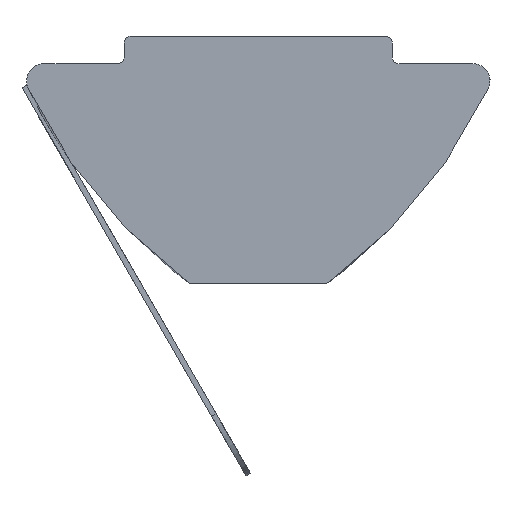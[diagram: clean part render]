
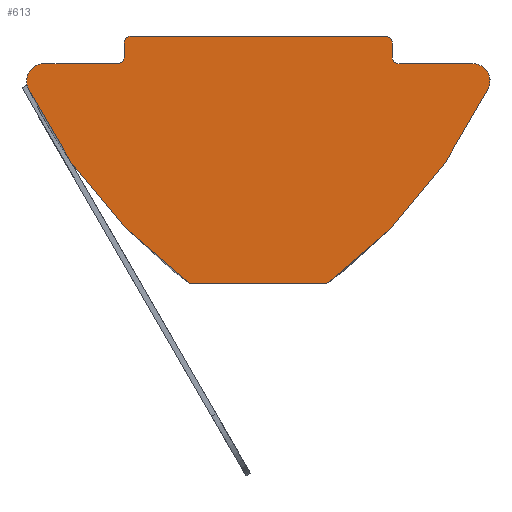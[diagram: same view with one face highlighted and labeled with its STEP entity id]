
A CAD part, left-side view. The second image highlights one B-rep face of the part: STEP entity #613.
In plain terms, the highlighted planar face has unit normal (-1, 0, 0).
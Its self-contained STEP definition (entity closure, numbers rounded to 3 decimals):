
#31 = EDGE_CURVE ( 'NONE', #843, #131, #1115, .T. ) ;
#32 = DIRECTION ( 'NONE',  ( 0., 1., 0. ) ) ;
#44 = ORIENTED_EDGE ( 'NONE', *, *, #31, .F. ) ;
#50 = VERTEX_POINT ( 'NONE', #742 ) ;
#73 = CIRCLE ( 'NONE', #727, 0.505 ) ;
#102 = CIRCLE ( 'NONE', #984, 0.2 ) ;
#104 = CIRCLE ( 'NONE', #986, 15. ) ;
#113 = EDGE_CURVE ( 'NONE', #456, #839, #249, .T. ) ;
#118 = CARTESIAN_POINT ( 'NONE',  ( -11., -3.7, 0. ) ) ;
#120 = CARTESIAN_POINT ( 'NONE',  ( -11., -6.242, -1.305 ) ) ;
#121 = LINE ( 'NONE', #519, #1202 ) ;
#128 = DIRECTION ( 'NONE',  ( 0., -1., 0. ) ) ;
#131 = VERTEX_POINT ( 'NONE', #1059 ) ;
#143 = CARTESIAN_POINT ( 'NONE',  ( -11., 3.7, -0.2 ) ) ;
#162 = CARTESIAN_POINT ( 'NONE',  ( -11., -4.1, -0.6 ) ) ;
#164 = ORIENTED_EDGE ( 'NONE', *, *, #1090, .F. ) ;
#167 = DIRECTION ( 'NONE',  ( 0., 0., 1. ) ) ;
#170 = CARTESIAN_POINT ( 'NONE',  ( -11., 3.9, -0.6 ) ) ;
#173 = AXIS2_PLACEMENT_3D ( 'NONE', #143, #1184, #738 ) ;
#194 = CARTESIAN_POINT ( 'NONE',  ( -11., 3.9, -0.2 ) ) ;
#209 = EDGE_LOOP ( 'NONE', ( #1215, #517, #164, #894, #1259, #486, #1103, #44, #1104, #503, #1167, #832, #665, #723 ) ) ;
#219 = DIRECTION ( 'NONE',  ( 0., -1., 0. ) ) ;
#232 = CARTESIAN_POINT ( 'NONE',  ( -11., 4.1, -0.6 ) ) ;
#235 = AXIS2_PLACEMENT_3D ( 'NONE', #269, #944, #248 ) ;
#247 = EDGE_CURVE ( 'NONE', #803, #870, #102, .T. ) ;
#248 = DIRECTION ( 'NONE',  ( 0., 0., 1. ) ) ;
#249 = LINE ( 'NONE', #1163, #1281 ) ;
#269 = CARTESIAN_POINT ( 'NONE',  ( -11., 6.854, 4.908 ) ) ;
#281 = VERTEX_POINT ( 'NONE', #170 ) ;
#288 = EDGE_CURVE ( 'NONE', #131, #1183, #916, .T. ) ;
#308 = CARTESIAN_POINT ( 'NONE',  ( -11., -6.242, -0.8 ) ) ;
#310 = LINE ( 'NONE', #987, #778 ) ;
#340 = VERTEX_POINT ( 'NONE', #675 ) ;
#383 = AXIS2_PLACEMENT_3D ( 'NONE', #1278, #948, #167 ) ;
#401 = VECTOR ( 'NONE', #128, 1000. ) ;
#409 = CIRCLE ( 'NONE', #1140, 0.2 ) ;
#410 = DIRECTION ( 'NONE',  ( 0., 0., 1. ) ) ;
#413 = CARTESIAN_POINT ( 'NONE',  ( -11., -4.1, -0.8 ) ) ;
#422 = CARTESIAN_POINT ( 'NONE',  ( -11., 3.9, -0.6 ) ) ;
#427 = VECTOR ( 'NONE', #881, 1000. ) ;
#456 = VERTEX_POINT ( 'NONE', #1132 ) ;
#458 = DIRECTION ( 'NONE',  ( 0., 0., 1. ) ) ;
#461 = AXIS2_PLACEMENT_3D ( 'NONE', #232, #1124, #632 ) ;
#486 = ORIENTED_EDGE ( 'NONE', *, *, #864, .F. ) ;
#487 = CARTESIAN_POINT ( 'NONE',  ( -11., 4.1, -0.8 ) ) ;
#503 = ORIENTED_EDGE ( 'NONE', *, *, #973, .T. ) ;
#509 = VERTEX_POINT ( 'NONE', #118 ) ;
#517 = ORIENTED_EDGE ( 'NONE', *, *, #575, .T. ) ;
#519 = CARTESIAN_POINT ( 'NONE',  ( -11., 3.7, -7.2 ) ) ;
#527 = VERTEX_POINT ( 'NONE', #413 ) ;
#553 = CARTESIAN_POINT ( 'NONE',  ( -11., 3.7, -0.2 ) ) ;
#575 = EDGE_CURVE ( 'NONE', #281, #716, #629, .T. ) ;
#584 = EDGE_CURVE ( 'NONE', #340, #1229, #73, .T. ) ;
#602 = CARTESIAN_POINT ( 'NONE',  ( -11., 3.7, -0.8 ) ) ;
#613 = ADVANCED_FACE ( 'NONE', ( #830 ), #875, .F. ) ;
#629 = CIRCLE ( 'NONE', #461, 0.2 ) ;
#632 = DIRECTION ( 'NONE',  ( 0., 0., 1. ) ) ;
#651 = CARTESIAN_POINT ( 'NONE',  ( -11., -6.854, 4.908 ) ) ;
#665 = ORIENTED_EDGE ( 'NONE', *, *, #1213, .F. ) ;
#668 = DIRECTION ( 'NONE',  ( 0., 0., 1. ) ) ;
#672 = DIRECTION ( 'NONE',  ( 1., 0., 0. ) ) ;
#675 = CARTESIAN_POINT ( 'NONE',  ( -11., 6.698, -1.521 ) ) ;
#682 = DIRECTION ( 'NONE',  ( 1., 0., 0. ) ) ;
#706 = EDGE_CURVE ( 'NONE', #50, #340, #104, .T. ) ;
#715 = LINE ( 'NONE', #422, #1074 ) ;
#716 = VERTEX_POINT ( 'NONE', #487 ) ;
#723 = ORIENTED_EDGE ( 'NONE', *, *, #247, .F. ) ;
#727 = AXIS2_PLACEMENT_3D ( 'NONE', #730, #897, #1023 ) ;
#730 = CARTESIAN_POINT ( 'NONE',  ( -11., 6.242, -1.305 ) ) ;
#738 = DIRECTION ( 'NONE',  ( 0., 0., -1. ) ) ;
#742 = CARTESIAN_POINT ( 'NONE',  ( -11., 2., -7.2 ) ) ;
#744 = CIRCLE ( 'NONE', #383, 0.2 ) ;
#746 = EDGE_CURVE ( 'NONE', #527, #843, #792, .T. ) ;
#778 = VECTOR ( 'NONE', #219, 1000. ) ;
#792 = LINE ( 'NONE', #602, #427 ) ;
#803 = VERTEX_POINT ( 'NONE', #194 ) ;
#817 = LINE ( 'NONE', #1035, #401 ) ;
#830 = FACE_OUTER_BOUND ( 'NONE', #209, .T. ) ;
#832 = ORIENTED_EDGE ( 'NONE', *, *, #974, .F. ) ;
#839 = VERTEX_POINT ( 'NONE', #991 ) ;
#843 = VERTEX_POINT ( 'NONE', #308 ) ;
#864 = EDGE_CURVE ( 'NONE', #1183, #50, #121, .T. ) ;
#870 = VERTEX_POINT ( 'NONE', #1224 ) ;
#875 = PLANE ( 'NONE',  #173 ) ;
#877 = EDGE_CURVE ( 'NONE', #803, #281, #715, .T. ) ;
#881 = DIRECTION ( 'NONE',  ( 0., -1., 0. ) ) ;
#894 = ORIENTED_EDGE ( 'NONE', *, *, #584, .F. ) ;
#897 = DIRECTION ( 'NONE',  ( 1., 0., 0. ) ) ;
#900 = DIRECTION ( 'NONE',  ( 1., 0., 0. ) ) ;
#916 = CIRCLE ( 'NONE', #235, 15. ) ;
#936 = CARTESIAN_POINT ( 'NONE',  ( -11., 6.242, -0.8 ) ) ;
#942 = DIRECTION ( 'NONE',  ( 1., 0., 0. ) ) ;
#944 = DIRECTION ( 'NONE',  ( 1., 0., 0. ) ) ;
#948 = DIRECTION ( 'NONE',  ( 1., 0., 0. ) ) ;
#966 = AXIS2_PLACEMENT_3D ( 'NONE', #120, #900, #410 ) ;
#973 = EDGE_CURVE ( 'NONE', #527, #456, #409, .T. ) ;
#974 = EDGE_CURVE ( 'NONE', #509, #839, #744, .T. ) ;
#984 = AXIS2_PLACEMENT_3D ( 'NONE', #553, #672, #1254 ) ;
#986 = AXIS2_PLACEMENT_3D ( 'NONE', #651, #942, #1146 ) ;
#987 = CARTESIAN_POINT ( 'NONE',  ( -11., 3.7, -0.8 ) ) ;
#991 = CARTESIAN_POINT ( 'NONE',  ( -11., -3.9, -0.2 ) ) ;
#1023 = DIRECTION ( 'NONE',  ( 0., 0., 1. ) ) ;
#1035 = CARTESIAN_POINT ( 'NONE',  ( -11., 3.7, 0. ) ) ;
#1059 = CARTESIAN_POINT ( 'NONE',  ( -11., -6.698, -1.521 ) ) ;
#1074 = VECTOR ( 'NONE', #1114, 1000. ) ;
#1090 = EDGE_CURVE ( 'NONE', #1229, #716, #310, .T. ) ;
#1103 = ORIENTED_EDGE ( 'NONE', *, *, #288, .F. ) ;
#1104 = ORIENTED_EDGE ( 'NONE', *, *, #746, .F. ) ;
#1114 = DIRECTION ( 'NONE',  ( 0., 0., -1. ) ) ;
#1115 = CIRCLE ( 'NONE', #966, 0.505 ) ;
#1124 = DIRECTION ( 'NONE',  ( 1., 0., 0. ) ) ;
#1132 = CARTESIAN_POINT ( 'NONE',  ( -11., -3.9, -0.6 ) ) ;
#1140 = AXIS2_PLACEMENT_3D ( 'NONE', #162, #682, #458 ) ;
#1146 = DIRECTION ( 'NONE',  ( 0., 0., 1. ) ) ;
#1163 = CARTESIAN_POINT ( 'NONE',  ( -11., -3.9, -0.2 ) ) ;
#1167 = ORIENTED_EDGE ( 'NONE', *, *, #113, .T. ) ;
#1183 = VERTEX_POINT ( 'NONE', #1245 ) ;
#1184 = DIRECTION ( 'NONE',  ( 1., 0., 0. ) ) ;
#1202 = VECTOR ( 'NONE', #32, 1000. ) ;
#1213 = EDGE_CURVE ( 'NONE', #870, #509, #817, .T. ) ;
#1215 = ORIENTED_EDGE ( 'NONE', *, *, #877, .T. ) ;
#1224 = CARTESIAN_POINT ( 'NONE',  ( -11., 3.7, 0. ) ) ;
#1229 = VERTEX_POINT ( 'NONE', #936 ) ;
#1245 = CARTESIAN_POINT ( 'NONE',  ( -11., -2., -7.2 ) ) ;
#1254 = DIRECTION ( 'NONE',  ( 0., 0., 1. ) ) ;
#1259 = ORIENTED_EDGE ( 'NONE', *, *, #706, .F. ) ;
#1278 = CARTESIAN_POINT ( 'NONE',  ( -11., -3.7, -0.2 ) ) ;
#1281 = VECTOR ( 'NONE', #668, 1000. ) ;
